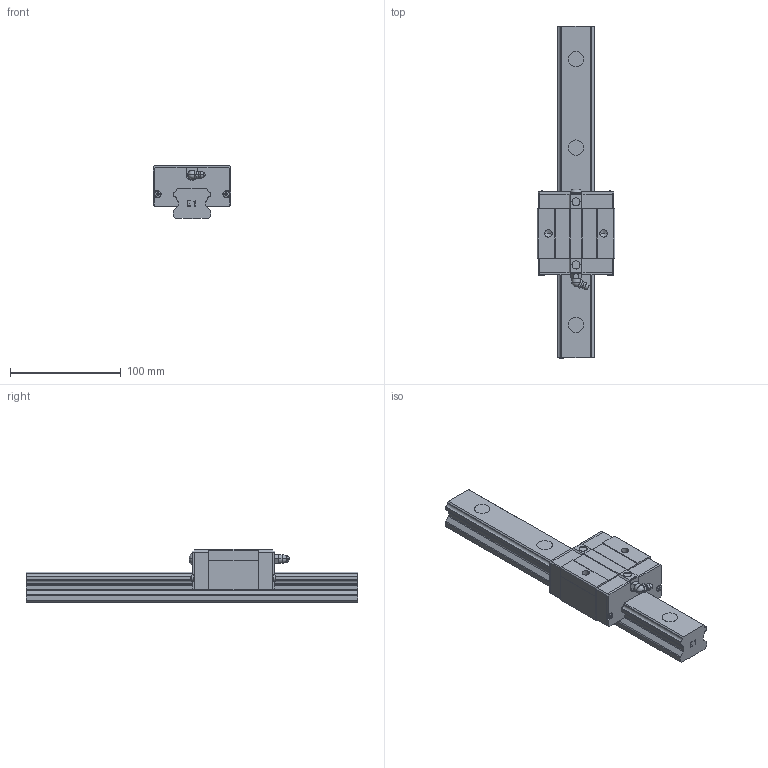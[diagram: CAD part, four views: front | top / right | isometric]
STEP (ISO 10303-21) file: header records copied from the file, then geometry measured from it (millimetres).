
FILE_DESCRIPTION(('no description'),'unknown implementation level');
FILE_NAME('EGH35SA_1_R_300_Z0_H_SS_7.stp',' ',('HIWIN GmbH'),('CADClick - KiM GmbH - www.kimweb.de'),'unknown preprocess','ACIS','unknown authorization');
FILE_SCHEMA(('CONFIG_CONTROL_DESIGN'));
Length unit declared in the file: millimetre
Products named in the file (2): 1; 2
Bounding box: 70 x 300 x 48 mm (x, y, z)
Volume: 386300.3 mm3; surface area: 68411.7 mm2
Topology: 2 solids, 4 shells, 627 faces, 1715 edges, 1118 vertices
Faces by surface type: plane 435, cylinder 134, cone 38, torus 18, sphere 2
Entity records: 19897 total; most frequent: CARTESIAN_POINT 4232, ORIENTED_EDGE 3418, DIRECTION 3113, EDGE_CURVE 1709, LINE 1123, VECTOR 1123, VERTEX_POINT 1118, AXIS2_PLACEMENT_3D 995
